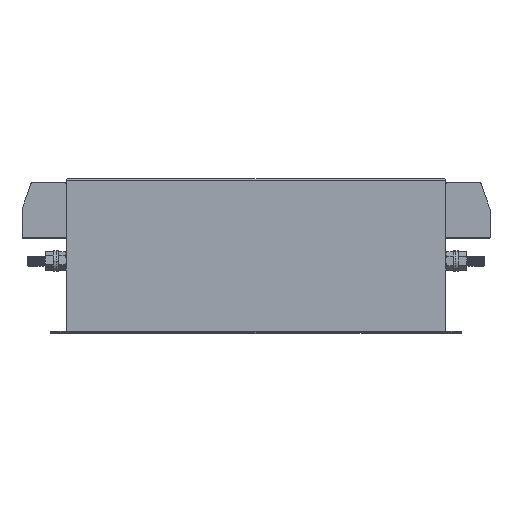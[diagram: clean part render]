
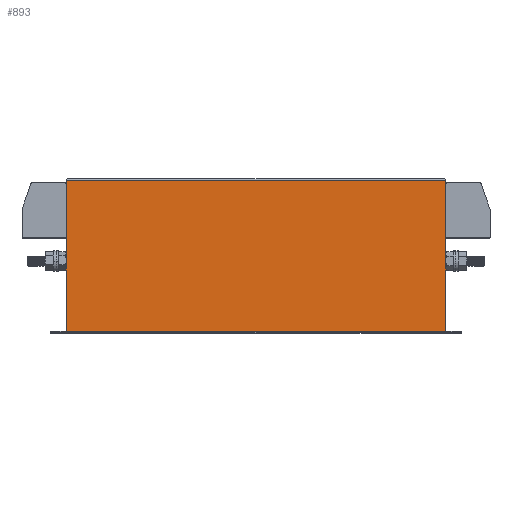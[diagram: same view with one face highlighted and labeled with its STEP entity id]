
A CAD part, top view. The second image highlights one B-rep face of the part: STEP entity #893.
In plain terms, the highlighted planar face has unit normal (0, 0, 1).
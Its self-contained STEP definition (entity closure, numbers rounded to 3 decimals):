
#136 = ORIENTED_EDGE ( 'NONE', *, *, #3907, .T. ) ;
#584 = DIRECTION ( 'NONE',  ( -1., 0., 0. ) ) ;
#714 = AXIS2_PLACEMENT_3D ( 'NONE', #3002, #2120, #584 ) ;
#737 = FACE_OUTER_BOUND ( 'NONE', #9069, .T. ) ;
#893 = ADVANCED_FACE ( 'NONE', ( #737 ), #5873, .F. ) ;
#1081 = LINE ( 'NONE', #5678, #7672 ) ;
#1892 = LINE ( 'NONE', #2570, #7173 ) ;
#2120 = DIRECTION ( 'NONE',  ( 0., 0., -1. ) ) ;
#2570 = CARTESIAN_POINT ( 'NONE',  ( 385., 150., 1.5 ) ) ;
#3002 = CARTESIAN_POINT ( 'NONE',  ( 15., 150., 1.5 ) ) ;
#3359 = CARTESIAN_POINT ( 'NONE',  ( 385., 1.5, 1.5 ) ) ;
#3907 = EDGE_CURVE ( 'NONE', #4037, #4213, #6245, .T. ) ;
#3966 = EDGE_CURVE ( 'NONE', #5511, #9105, #6850, .T. ) ;
#4037 = VERTEX_POINT ( 'NONE', #5548 ) ;
#4155 = EDGE_CURVE ( 'NONE', #9105, #4037, #1081, .T. ) ;
#4208 = DIRECTION ( 'NONE',  ( 0., -1., 0. ) ) ;
#4213 = VERTEX_POINT ( 'NONE', #3359 ) ;
#4543 = CARTESIAN_POINT ( 'NONE',  ( 385., 148.5, 1.5 ) ) ;
#4675 = CARTESIAN_POINT ( 'NONE',  ( 15., 1.5, 1.5 ) ) ;
#5132 = CARTESIAN_POINT ( 'NONE',  ( 15., 148.5, 1.5 ) ) ;
#5382 = DIRECTION ( 'NONE',  ( 1., 0., 0. ) ) ;
#5484 = DIRECTION ( 'NONE',  ( -1., 0., 0. ) ) ;
#5511 = VERTEX_POINT ( 'NONE', #4543 ) ;
#5548 = CARTESIAN_POINT ( 'NONE',  ( 15., 1.5, 1.5 ) ) ;
#5678 = CARTESIAN_POINT ( 'NONE',  ( 15., 150., 1.5 ) ) ;
#5753 = VECTOR ( 'NONE', #5382, 1000. ) ;
#5873 = PLANE ( 'NONE',  #714 ) ;
#6245 = LINE ( 'NONE', #4675, #5753 ) ;
#6604 = EDGE_CURVE ( 'NONE', #5511, #4213, #1892, .T. ) ;
#6850 = LINE ( 'NONE', #9506, #9484 ) ;
#7173 = VECTOR ( 'NONE', #4208, 1000. ) ;
#7276 = DIRECTION ( 'NONE',  ( 0., -1., 0. ) ) ;
#7672 = VECTOR ( 'NONE', #7276, 1000. ) ;
#8573 = ORIENTED_EDGE ( 'NONE', *, *, #6604, .F. ) ;
#9069 = EDGE_LOOP ( 'NONE', ( #8573, #10244, #9419, #136 ) ) ;
#9105 = VERTEX_POINT ( 'NONE', #5132 ) ;
#9419 = ORIENTED_EDGE ( 'NONE', *, *, #4155, .T. ) ;
#9484 = VECTOR ( 'NONE', #5484, 1000. ) ;
#9506 = CARTESIAN_POINT ( 'NONE',  ( 15., 148.5, 1.5 ) ) ;
#10244 = ORIENTED_EDGE ( 'NONE', *, *, #3966, .T. ) ;
